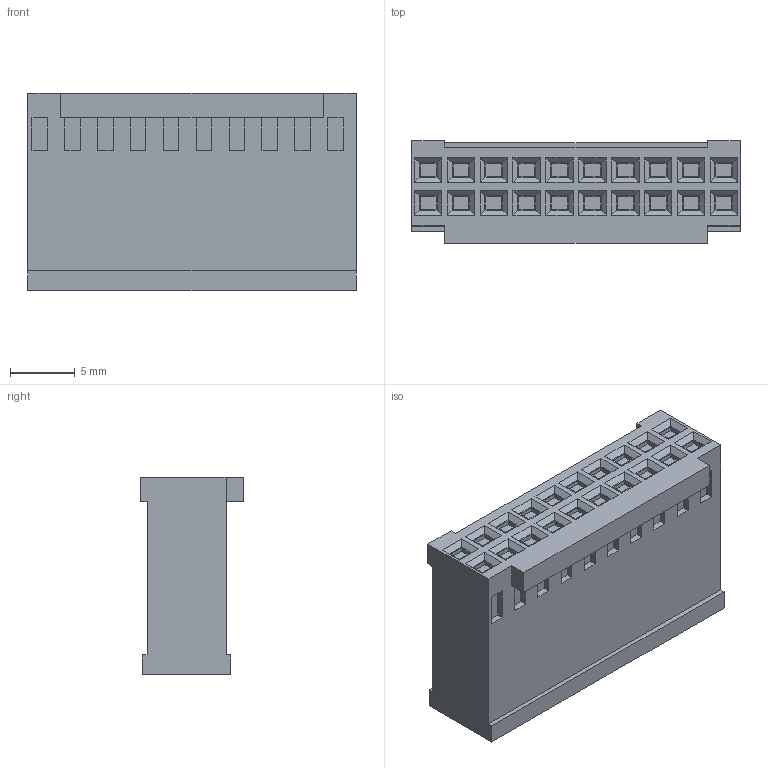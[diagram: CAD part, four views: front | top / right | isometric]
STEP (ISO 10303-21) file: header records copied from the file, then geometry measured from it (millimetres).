
FILE_DESCRIPTION((''),'2;1');
FILE_NAME('C-3-87977-5','2024-11-15T01:22:25',('workeradm'),('TE Connectivity Ltd.'),'CREO PARAMETRIC BY PTC INC, 2021072','CREO PARAMETRIC BY PTC INC, 2021072','');
FILE_SCHEMA(('AUTOMOTIVE_DESIGN { 1 0 10303 214 1 1 1 1 }'));
Length unit declared in the file: millimetre
Products named in the file (1): C-3-87977-5
Bounding box: 25.4 x 7.95 x 15.24 mm (x, y, z)
Volume: 2312.2 mm3; surface area: 1645.1 mm2
Topology: 1 solids, 1 shells, 470 faces, 1154 edges, 756 vertices
Faces by surface type: plane 470
Entity records: 13674 total; most frequent: CARTESIAN_POINT 2382, ORIENTED_EDGE 2308, DIRECTION 2094, VECTOR 1154, LINE 1154, EDGE_CURVE 1154, VERTEX_POINT 756, EDGE_LOOP 540
